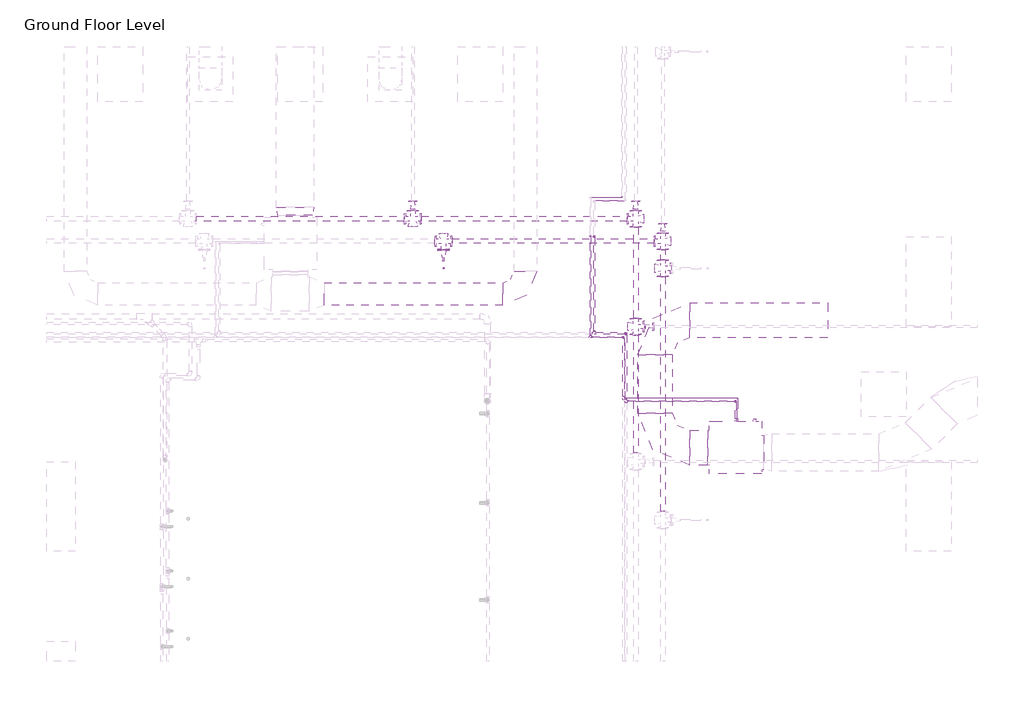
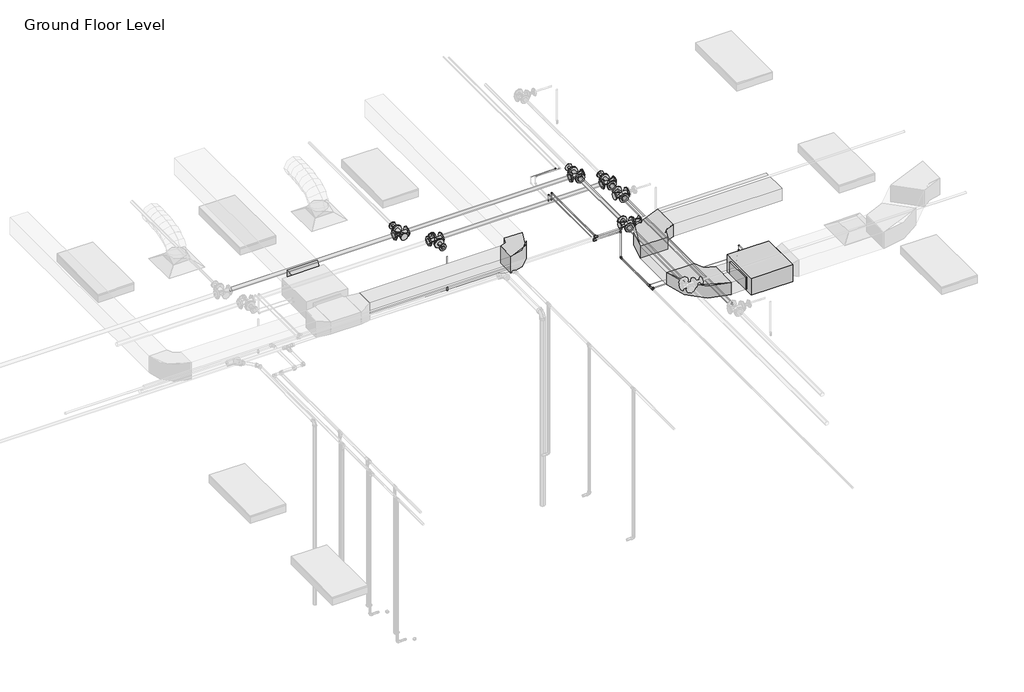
# One storey, part 67 of 74: 32 pipe fittings, 27 pipe segments, 4 duct fittings, 4 duct segments, 1 fire suppression terminal, 1 proxy.
"""IFC4 building model written with IfcOpenShell, lengths in millimetres."""

from ifc_helpers import new_model, si_unit, point, frame, frame_2d, origin, place, context, project, spatial, polyline, circle_curve, trimmed, segment, composite_curve, outline, extrude, transform, mapped, element, save
from components import fcu_daikin_iu_bad131e0, m_rectangular_elbow_radius_1_w_618da153, m_rectangular_elbow_radius_1_w_54c96895, m_rectangular_transition_angle_45_degree_5a11b24e, m_sprinkler_pendent_15_mm_pendent_06fcbd8e, m_elbow_generic_standard_a088f956, m_elbow_generic_standard_2a704253, m_elbow_generic_standard_73005802, m_elbow_generic_standard_bb5ffebe, m_reducer_flanged_cs_class_150_standard_a7631c35, m_reducer_flanged_cs_class_150_standard_55262df0, m_tee_generic_standard_cdc1cff5, m_tee_generic_standard_bbfc025c, m_tee_round_base_flanged_cs_class_150_standard_dd767e04, m_transition_generic_standard_e9aec4dd, m_transition_generic_standard_c2658a33

model = new_model("IFC4")

# Units and contexts
model_context = context("Model", 3, world=origin())
ifc_project = project(units=[si_unit("LENGTHUNIT", "METRE", prefix="MILLI")], contexts=[model_context])

# Site, building, storey
site = spatial("IfcSite", under=ifc_project)
building = spatial("IfcBuilding", under=site)
storey = spatial("IfcBuildingStorey", under=building, Name="Ground Floor Level", Elevation=900.0)

# Proxy
placement = place(None, origin())
fcu_daikin_iu_shape = fcu_daikin_iu_bad131e0(model_context)
element("IfcBuildingElementProxy", 1, Name="FCU-DAIKIN IU : 4.5kW, 230V/50Hz/1Ph", ObjectType="FCU-DAIKIN IU : 4.5kW, 230V/50Hz/1Ph", at=placement, inside=storey, context=model_context, shape_type="MappedRepresentation", body=[
    mapped(fcu_daikin_iu_shape, transform((6968.8139492, 12019.6779527, 3934.0932729), x_axis=(0.0, 1.0, 0.0), y_axis=(-1.0, 0.0, 0.0), z_axis=(0.0, 0.0, 1.0))),
])

# Duct fittings
m_rectangular_elbow_radius_1_w_shape = m_rectangular_elbow_radius_1_w_618da153(model_context)
element("IfcDuctFitting", 2, ObjectType="M_Rectangular Elbow - Radius : 1 W", at=placement, inside=storey, context=model_context, shape_type="MappedRepresentation", body=[
    mapped(m_rectangular_elbow_radius_1_w_shape, transform((4162.7672395, 14069.8153534, 4075.2872564), x_axis=(1.0, 0.0, 0.0), y_axis=(0.0, 1.0, 0.0), z_axis=(0.0, 0.0, 1.0))),
])
m_rectangular_elbow_radius_1_w_2_shape = m_rectangular_elbow_radius_1_w_54c96895(model_context)
element("IfcDuctFitting", 3, ObjectType="M_Rectangular Elbow - Radius : 1 W", at=placement, inside=storey, context=model_context, shape_type="MappedRepresentation", body=[
    mapped(m_rectangular_elbow_radius_1_w_2_shape, transform((5893.4139492, 12019.6779527, 4075.2932729), x_axis=(0.0, -1.0, 0.0), y_axis=(1.0, 0.0, 0.0), z_axis=(0.0, 0.0, 1.0))),
])
element("IfcDuctFitting", 4, ObjectType="M_Rectangular Elbow - Radius : 1 W", at=placement, inside=storey, context=model_context, shape_type="MappedRepresentation", body=[
    mapped(m_rectangular_elbow_radius_1_w_2_shape, transform((5893.4139492, 13719.6783949, 4075.2932729), x_axis=(-1.0, 0.0, 0.0), y_axis=(0.0, -1.0, 0.0), z_axis=(0.0, 0.0, 1.0))),
])
m_rectangular_transition_angle_45_degree_shape = m_rectangular_transition_angle_45_degree_5a11b24e(model_context)
element("IfcDuctFitting", 5, ObjectType="M_Rectangular Transition - Angle : 45 Degree", at=placement, inside=storey, context=model_context, shape_type="MappedRepresentation", body=[
    mapped(m_rectangular_transition_angle_45_degree_shape, transform((1091.2672395, 15120.6153534, 4099.9997564), x_axis=(0.0, 1.0, 0.0), y_axis=(-1.0, 0.0, 0.0), z_axis=(0.0, 0.0, 1.0))),
])

# Duct segments
element("IfcDuctSegment", 6, ObjectType="Radius Elbows / Taps", at=placement, inside=storey, context=model_context, shape_type="SweptSolid", body=[
    extrude(outline(polyline([(1479.1051497, 13919.8153534), (1479.1051497, 14219.8153534), (3862.7672395, 14219.8153534), (3862.7672395, 13919.8153534), (1479.1051497, 13919.8153534)])), frame((0.0, 0.0, 3925.2872564), z_axis=(0.0, 0.0, 1.0), x_axis=(1.0, 0.0, 0.0)), (0.0, 0.0, 1.0), 300.0),
])
element("IfcDuctSegment", 7, ObjectType="Radius Elbows / Taps", at=placement, inside=storey, context=model_context, shape_type="SweptSolid", body=[
    extrude(outline(polyline([(6593.4139492, 12250.6154527), (6593.4139492, 11788.7404527), (6355.2889492, 11788.7404527), (6355.2889492, 12250.6154527), (6593.4139492, 12250.6154527)])), frame((0.0, 0.0, 3968.1432729), z_axis=(0.0, 0.0, 1.0), x_axis=(1.0, 0.0, 0.0)), (0.0, 0.0, 1.0), 214.3),
])
element("IfcDuctSegment", 8, ObjectType="Radius Elbows / Taps", at=placement, inside=storey, context=model_context, shape_type="SweptSolid", body=[
    extrude(outline(polyline([(6124.3514492, 12481.5529527), (5662.4764492, 12481.5529527), (5662.4764492, 13257.8033949), (6124.3514492, 13257.8033949), (6124.3514492, 12481.5529527)])), frame((0.0, 0.0, 3968.1432729), z_axis=(0.0, 0.0, 1.0), x_axis=(1.0, 0.0, 0.0)), (0.0, 0.0, 1.0), 214.3),
])
element("IfcDuctSegment", 9, ObjectType="Radius Elbows / Taps", at=placement, inside=storey, context=model_context, shape_type="SweptSolid", body=[
    extrude(outline(polyline([(6355.2889492, 13488.7408949), (6355.2889492, 13950.6158949), (8193.4139492, 13950.6158949), (8193.4139492, 13488.7408949), (6355.2889492, 13488.7408949)])), frame((0.0, 0.0, 3968.1432729), z_axis=(0.0, 0.0, 1.0), x_axis=(1.0, 0.0, 0.0)), (0.0, 0.0, 1.0), 214.3),
])

# Fire suppression terminal
m_sprinkler_pendent_15_mm_pendent_shape = m_sprinkler_pendent_15_mm_pendent_06fcbd8e(model_context)
element("IfcFireSuppressionTerminal", 10, ObjectType="M_Sprinkler - Pendent : 15 mm Pendent", at=placement, inside=storey, context=model_context, shape_type="MappedRepresentation", body=[
    mapped(m_sprinkler_pendent_15_mm_pendent_shape, transform((3071.8868905, 14412.7243649, 3650.0), x_axis=(1.0, 0.0, 0.0), y_axis=(0.0, 1.0, 0.0), z_axis=(0.0, 0.0, 1.0))),
])

# Pipe fittings
m_elbow_generic_standard_shape = m_elbow_generic_standard_a088f956(model_context)
element("IfcPipeFitting", 11, ObjectType="M_Elbow - Generic : Standard", at=placement, inside=storey, context=model_context, shape_type="MappedRepresentation", body=[
    mapped(m_elbow_generic_standard_shape, transform((6968.8139492, 12641.4098545, 4034.0932729), x_axis=(0.0, 1.0, 0.0), y_axis=(0.0, 0.0, -1.0), z_axis=(-1.0, 0.0, 0.0))),
])
element("IfcPipeFitting", 12, ObjectType="M_Elbow - Generic : Standard", at=placement, inside=storey, context=model_context, shape_type="MappedRepresentation", body=[
    mapped(m_elbow_generic_standard_shape, transform((6968.8139492, 12641.4098545, 3851.8370709), x_axis=(0.0, 0.0, -1.0), y_axis=(-1.0, 0.0, 0.0), z_axis=(0.0, 1.0, 0.0))),
])
element("IfcPipeFitting", 13, ObjectType="M_Elbow - Generic : Standard", at=placement, inside=storey, context=model_context, shape_type="MappedRepresentation", body=[
    mapped(m_elbow_generic_standard_shape, transform((5079.6672395, 14839.2712401, 4250.0), x_axis=(0.0, -1.0, 0.0), y_axis=(0.0, 0.0, 1.0), z_axis=(-1.0, 0.0, 0.0))),
])
element("IfcPipeFitting", 14, ObjectType="M_Elbow - Generic : Standard", at=placement, inside=storey, context=model_context, shape_type="MappedRepresentation", body=[
    mapped(m_elbow_generic_standard_shape, transform((5079.6672395, 14839.2712401, 4380.0), x_axis=(0.0, 0.0, 1.0), y_axis=(0.0, -1.0, 0.0), z_axis=(1.0, 0.0, 0.0))),
])
m_elbow_generic_standard_2_shape = m_elbow_generic_standard_2a704253(model_context)
element("IfcPipeFitting", 15, ObjectType="M_Elbow - Generic : Standard", at=placement, inside=storey, context=model_context, shape_type="MappedRepresentation", body=[
    mapped(m_elbow_generic_standard_2_shape, transform((5452.0810646, 15359.0778534, 4365.0), x_axis=(1.0, 0.0, 0.0), y_axis=(0.0, 1.0, 0.0), z_axis=(0.0, 0.0, 1.0))),
])
element("IfcPipeFitting", 16, ObjectType="M_Elbow - Generic : Standard", at=placement, inside=storey, context=model_context, shape_type="MappedRepresentation", body=[
    mapped(m_elbow_generic_standard_2_shape, transform((6993.8139492, 12681.5253374, 4084.8932729), x_axis=(0.0, 1.0, 0.0), y_axis=(0.0, 0.0, -1.0), z_axis=(-1.0, 0.0, 0.0))),
])
element("IfcPipeFitting", 17, ObjectType="M_Elbow - Generic : Standard", at=placement, inside=storey, context=model_context, shape_type="MappedRepresentation", body=[
    mapped(m_elbow_generic_standard_2_shape, transform((6993.8139492, 12681.5253374, 3894.9), x_axis=(0.0, 0.0, -1.0), y_axis=(-1.0, 0.0, 0.0), z_axis=(0.0, 1.0, 0.0))),
])
element("IfcPipeFitting", 18, ObjectType="M_Elbow - Generic : Standard", at=placement, inside=storey, context=model_context, shape_type="MappedRepresentation", body=[
    mapped(m_elbow_generic_standard_2_shape, transform((5029.9807053, 14842.4877441, 4250.0), x_axis=(0.0, -1.0, 0.0), y_axis=(0.0, 0.0, 1.0), z_axis=(-1.0, 0.0, 0.0))),
])
element("IfcPipeFitting", 19, ObjectType="M_Elbow - Generic : Standard", at=placement, inside=storey, context=model_context, shape_type="MappedRepresentation", body=[
    mapped(m_elbow_generic_standard_2_shape, transform((5029.9807053, 14842.4877441, 4365.0), x_axis=(0.0, 0.0, 1.0), y_axis=(0.0, -1.0, 0.0), z_axis=(1.0, 0.0, 0.0))),
])
m_elbow_generic_standard_3_shape = m_elbow_generic_standard_73005802(model_context)
element("IfcPipeFitting", 20, ObjectType="M_Elbow - Generic : Standard", at=placement, inside=storey, context=model_context, shape_type="MappedRepresentation", body=[
    mapped(m_elbow_generic_standard_3_shape, transform((5505.0672395, 13545.2153534, 3851.8370709), x_axis=(0.0, 1.0, 0.0), y_axis=(0.0, 0.0, 1.0), z_axis=(1.0, 0.0, 0.0))),
])
element("IfcPipeFitting", 21, ObjectType="M_Elbow - Generic : Standard", at=placement, inside=storey, context=model_context, shape_type="MappedRepresentation", body=[
    mapped(m_elbow_generic_standard_3_shape, transform((5505.0672395, 13545.2153534, 4380.0), x_axis=(0.0, 0.0, 1.0), y_axis=(-1.0, 0.0, 0.0), z_axis=(0.0, -1.0, 0.0))),
])
m_elbow_generic_standard_4_shape = m_elbow_generic_standard_bb5ffebe(model_context)
element("IfcPipeFitting", 22, ObjectType="M_Elbow - Generic : Standard", at=placement, inside=storey, context=model_context, shape_type="MappedRepresentation", body=[
    mapped(m_elbow_generic_standard_4_shape, transform((5472.2057053, 13494.0185138, 3894.9), x_axis=(0.0, 1.0, 0.0), y_axis=(0.0, 0.0, 1.0), z_axis=(1.0, 0.0, 0.0))),
])
element("IfcPipeFitting", 23, ObjectType="M_Elbow - Generic : Standard", at=placement, inside=storey, context=model_context, shape_type="MappedRepresentation", body=[
    mapped(m_elbow_generic_standard_4_shape, transform((5472.2057053, 13494.0185138, 4365.0), x_axis=(0.0, 0.0, 1.0), y_axis=(-1.0, 0.0, 0.0), z_axis=(0.0, -1.0, 0.0))),
])
m_reducer_flanged_cs_class_150_standard_shape = m_reducer_flanged_cs_class_150_standard_a7631c35(model_context)
element("IfcPipeFitting", 24, ObjectType="M_Reducer - Flanged - CS - Class 150 : Standard", at=placement, inside=storey, context=model_context, shape_type="MappedRepresentation", body=[
    mapped(m_reducer_flanged_cs_class_150_standard_shape, transform((5997.057812, 14887.4681847, 4291.0943441), x_axis=(0.0, 1.0, 0.0), y_axis=(-1.0, 0.0, 0.0), z_axis=(0.0, 0.0, 1.0))),
])
element("IfcPipeFitting", 25, ObjectType="M_Reducer - Flanged - CS - Class 150 : Standard", at=placement, inside=storey, context=model_context, shape_type="MappedRepresentation", body=[
    mapped(m_reducer_flanged_cs_class_150_standard_shape, transform((2662.7672395, 15187.2009828, 4360.0), x_axis=(0.0, 1.0, 0.0), y_axis=(-1.0, 0.0, 0.0), z_axis=(0.0, 0.0, 1.0))),
])
element("IfcPipeFitting", 26, ObjectType="M_Reducer - Flanged - CS - Class 150 : Standard", at=placement, inside=storey, context=model_context, shape_type="MappedRepresentation", body=[
    mapped(m_reducer_flanged_cs_class_150_standard_shape, transform((5635.869498, 15187.2009828, 4360.0), x_axis=(0.0, 1.0, 0.0), y_axis=(-1.0, 0.0, 0.0), z_axis=(0.0, 0.0, 1.0))),
])
element("IfcPipeFitting", 27, ObjectType="M_Reducer - Flanged - CS - Class 150 : Standard", at=placement, inside=storey, context=model_context, shape_type="MappedRepresentation", body=[
    mapped(m_reducer_flanged_cs_class_150_standard_shape, transform((5749.869498, 13635.2153534, 4360.0), x_axis=(1.0, 0.0, 0.0), y_axis=(0.0, 0.0, 1.0), z_axis=(0.0, -1.0, 0.0))),
])
m_reducer_flanged_cs_class_150_standard_2_shape = m_reducer_flanged_cs_class_150_standard_55262df0(model_context)
element("IfcPipeFitting", 28, ObjectType="M_Reducer - Flanged - CS - Class 150 : Standard", at=placement, inside=storey, context=model_context, shape_type="MappedRepresentation", body=[
    mapped(m_reducer_flanged_cs_class_150_standard_2_shape, transform((3071.8868905, 14659.4681847, 4291.0943441), x_axis=(0.0, -1.0, 0.0), y_axis=(1.0, 0.0, 0.0), z_axis=(0.0, 0.0, 1.0))),
])
m_tee_generic_standard_shape = m_tee_generic_standard_cdc1cff5(model_context)
element("IfcPipeFitting", 29, ObjectType="M_Tee - Generic : Standard", at=placement, inside=storey, context=model_context, shape_type="MappedRepresentation", body=[
    mapped(m_tee_generic_standard_shape, transform((5472.2057053, 12681.5253374, 3894.9), x_axis=(0.0, 1.0, 0.0), y_axis=(-1.0, 0.0, 0.0), z_axis=(0.0, 0.0, 1.0))),
])
element("IfcPipeFitting", 30, ObjectType="M_Tee - Generic : Standard", at=placement, inside=storey, context=model_context, shape_type="MappedRepresentation", body=[
    mapped(m_tee_generic_standard_shape, transform((5029.9807053, 13494.0185138, 4365.0), x_axis=(-1.0, 0.0, 0.0), y_axis=(0.0, -1.0, 0.0), z_axis=(0.0, 0.0, 1.0))),
])
m_tee_generic_standard_2_shape = m_tee_generic_standard_bbfc025c(model_context)
element("IfcPipeFitting", 31, ObjectType="M_Tee - Generic : Standard", at=placement, inside=storey, context=model_context, shape_type="MappedRepresentation", body=[
    mapped(m_tee_generic_standard_2_shape, transform((5505.0672395, 12641.4098545, 3851.8370709), x_axis=(0.0, 1.0, 0.0), y_axis=(-1.0, 0.0, 0.0), z_axis=(0.0, 0.0, 1.0))),
])
element("IfcPipeFitting", 32, ObjectType="M_Tee - Generic : Standard", at=placement, inside=storey, context=model_context, shape_type="MappedRepresentation", body=[
    mapped(m_tee_generic_standard_2_shape, transform((5079.6672395, 13545.2153534, 4380.0), x_axis=(-1.0, 0.0, 0.0), y_axis=(0.0, -1.0, 0.0), z_axis=(0.0, 0.0, 1.0))),
])
m_tee_round_base_flanged_cs_class_150_standard_shape = m_tee_round_base_flanged_cs_class_150_standard_dd767e04(model_context)
element("IfcPipeFitting", 33, ObjectType="M_Tee Round Base - Flanged - CS - Class 150 : Standard", at=placement, inside=storey, context=model_context, shape_type="MappedRepresentation", body=[
    mapped(m_tee_round_base_flanged_cs_class_150_standard_shape, transform((5997.057812, 14773.4681847, 4291.0943441), x_axis=(0.0, -1.0, 0.0), y_axis=(1.0, 0.0, 0.0), z_axis=(0.0, 0.0, 1.0))),
])
element("IfcPipeFitting", 34, ObjectType="M_Tee Round Base - Flanged - CS - Class 150 : Standard", at=placement, inside=storey, context=model_context, shape_type="MappedRepresentation", body=[
    mapped(m_tee_round_base_flanged_cs_class_150_standard_shape, transform((3071.8868905, 14773.4681847, 4291.0943441), x_axis=(-1.0, 0.0, 0.0), y_axis=(0.0, 1.0, 0.0), z_axis=(0.0, 0.0, -1.0))),
])
element("IfcPipeFitting", 35, ObjectType="M_Tee Round Base - Flanged - CS - Class 150 : Standard", at=placement, inside=storey, context=model_context, shape_type="MappedRepresentation", body=[
    mapped(m_tee_round_base_flanged_cs_class_150_standard_shape, transform((5997.057812, 14412.7243649, 4291.0943441), x_axis=(0.0, 1.0, 0.0), y_axis=(-1.0, 0.0, 0.0), z_axis=(0.0, 0.0, 1.0))),
])
element("IfcPipeFitting", 36, ObjectType="M_Tee Round Base - Flanged - CS - Class 150 : Standard", at=placement, inside=storey, context=model_context, shape_type="MappedRepresentation", body=[
    mapped(m_tee_round_base_flanged_cs_class_150_standard_shape, transform((2662.7672395, 15073.2009828, 4360.0), x_axis=(-1.0, 0.0, 0.0), y_axis=(0.0, -1.0, 0.0), z_axis=(0.0, 0.0, 1.0))),
])
element("IfcPipeFitting", 37, ObjectType="M_Tee Round Base - Flanged - CS - Class 150 : Standard", at=placement, inside=storey, context=model_context, shape_type="MappedRepresentation", body=[
    mapped(m_tee_round_base_flanged_cs_class_150_standard_shape, transform((5635.869498, 15073.2009828, 4360.0), x_axis=(0.0, -1.0, 0.0), y_axis=(1.0, 0.0, 0.0), z_axis=(0.0, 0.0, 1.0))),
])
element("IfcPipeFitting", 38, ObjectType="M_Tee Round Base - Flanged - CS - Class 150 : Standard", at=placement, inside=storey, context=model_context, shape_type="MappedRepresentation", body=[
    mapped(m_tee_round_base_flanged_cs_class_150_standard_shape, transform((5635.869498, 13635.2153534, 4360.0), x_axis=(0.0, 1.0, 0.0), y_axis=(-1.0, 0.0, 0.0), z_axis=(0.0, 0.0, 1.0))),
])
m_transition_generic_standard_shape = m_transition_generic_standard_e9aec4dd(model_context)
element("IfcPipeFitting", 39, ObjectType="M_Transition - Generic : Standard", at=placement, inside=storey, context=model_context, shape_type="MappedRepresentation", body=[
    mapped(m_transition_generic_standard_shape, transform((5530.4672395, 12641.4098545, 3851.8370709), x_axis=(1.0, 0.0, 0.0), y_axis=(0.0, 1.0, 0.0), z_axis=(0.0, 0.0, 1.0))),
])
element("IfcPipeFitting", 40, ObjectType="M_Transition - Generic : Standard", at=placement, inside=storey, context=model_context, shape_type="MappedRepresentation", body=[
    mapped(m_transition_generic_standard_shape, transform((5079.6672395, 13570.6153534, 4380.0), x_axis=(0.0, 1.0, 0.0), y_axis=(-1.0, 0.0, 0.0), z_axis=(0.0, 0.0, 1.0))),
])
m_transition_generic_standard_2_shape = m_transition_generic_standard_c2658a33(model_context)
element("IfcPipeFitting", 41, ObjectType="M_Transition - Generic : Standard", at=placement, inside=storey, context=model_context, shape_type="MappedRepresentation", body=[
    mapped(m_transition_generic_standard_2_shape, transform((5494.4307053, 12681.5253374, 3894.9), x_axis=(1.0, 0.0, 0.0), y_axis=(0.0, 1.0, 0.0), z_axis=(0.0, 0.0, 1.0))),
])
element("IfcPipeFitting", 42, ObjectType="M_Transition - Generic : Standard", at=placement, inside=storey, context=model_context, shape_type="MappedRepresentation", body=[
    mapped(m_transition_generic_standard_2_shape, transform((5029.9807053, 13516.2435138, 4365.0), x_axis=(0.0, 1.0, 0.0), y_axis=(-1.0, 0.0, 0.0), z_axis=(0.0, 0.0, 1.0))),
])

# Pipe segments
element("IfcPipeSegment", 43, ObjectType="Copper", at=placement, inside=storey, context=model_context, shape_type="SweptSolid", body=[
    extrude(outline(composite_curve([segment(trimmed(circle_curve(frame_2d((13494.0185138, 4365.0)), 8.1), [point((13485.9185138, 4365.0))], [point((13494.0185138, 4373.1))], False, "CARTESIAN"), True, "CONTINUOUS"), segment(trimmed(circle_curve(frame_2d((13494.0185138, 4365.0)), 8.1), [point((13494.0185138, 4373.1))], [point((13502.1185138, 4365.0))], False, "CARTESIAN"), True, "CONTINUOUS"), segment(trimmed(circle_curve(frame_2d((13494.0185138, 4365.0)), 8.1), [point((13502.1185138, 4365.0))], [point((13494.0185138, 4356.9))], False, "CARTESIAN"), True, "CONTINUOUS"), segment(trimmed(circle_curve(frame_2d((13494.0185138, 4365.0)), 8.1), [point((13494.0185138, 4356.9))], [point((13485.9185138, 4365.0))], False, "CARTESIAN"), True, "CONTINUOUS")], self_intersect=False)), frame((5052.2057053, 0.0, 0.0), z_axis=(1.0, 0.0, 0.0), x_axis=(0.0, 1.0, 0.0)), (0.0, 0.0, 1.0), 404.125),
])
element("IfcPipeSegment", 44, ObjectType="Copper", at=placement, inside=storey, context=model_context, shape_type="SweptSolid", body=[
    extrude(outline(composite_curve([segment(trimmed(circle_curve(frame_2d((15359.0778534, 4365.0)), 3.35), [point((15355.7278534, 4365.0))], [point((15359.0778534, 4368.35))], False, "CARTESIAN"), True, "CONTINUOUS"), segment(trimmed(circle_curve(frame_2d((15359.0778534, 4365.0)), 3.35), [point((15359.0778534, 4368.35))], [point((15362.4278534, 4365.0))], False, "CARTESIAN"), True, "CONTINUOUS"), segment(trimmed(circle_curve(frame_2d((15359.0778534, 4365.0)), 3.35), [point((15362.4278534, 4365.0))], [point((15359.0778534, 4361.65))], False, "CARTESIAN"), True, "CONTINUOUS"), segment(trimmed(circle_curve(frame_2d((15359.0778534, 4365.0)), 3.35), [point((15359.0778534, 4361.65))], [point((15355.7278534, 4365.0))], False, "CARTESIAN"), True, "CONTINUOUS")], self_intersect=False)), frame((5041.1182053, 0.0, 0.0), z_axis=(1.0, 0.0, 0.0), x_axis=(0.0, 1.0, 0.0)), (0.0, 0.0, 1.0), 399.8253593),
])
element("IfcPipeSegment", 45, ObjectType="Copper", at=placement, inside=storey, context=model_context, shape_type="SweptSolid", body=[
    extrude(outline(composite_curve([segment(trimmed(circle_curve(frame_2d((15310.9278534, 4380.0)), 6.5), [point((15304.4278534, 4380.0))], [point((15310.9278534, 4386.5))], False, "CARTESIAN"), True, "CONTINUOUS"), segment(trimmed(circle_curve(frame_2d((15310.9278534, 4380.0)), 6.5), [point((15310.9278534, 4386.5))], [point((15317.4278534, 4380.0))], False, "CARTESIAN"), True, "CONTINUOUS"), segment(trimmed(circle_curve(frame_2d((15310.9278534, 4380.0)), 6.5), [point((15317.4278534, 4380.0))], [point((15310.9278534, 4373.5))], False, "CARTESIAN"), True, "CONTINUOUS"), segment(trimmed(circle_curve(frame_2d((15310.9278534, 4380.0)), 6.5), [point((15310.9278534, 4373.5))], [point((15304.4278534, 4380.0))], False, "CARTESIAN"), True, "CONTINUOUS")], self_intersect=False)), frame((5093.9547395, 0.0, 0.0), z_axis=(1.0, 0.0, 0.0), x_axis=(0.0, 1.0, 0.0)), (0.0, 0.0, 1.0), 393.5253593),
])
element("IfcPipeSegment", 46, ObjectType="Copper", at=placement, inside=storey, context=model_context, shape_type="SweptSolid", body=[
    extrude(outline(composite_curve([segment(trimmed(circle_curve(frame_2d((12681.5253374, 3894.9)), 3.35), [point((12684.8753374, 3894.9))], [point((12681.5253374, 3891.55))], False, "CARTESIAN"), True, "CONTINUOUS"), segment(trimmed(circle_curve(frame_2d((12681.5253374, 3894.9)), 3.35), [point((12681.5253374, 3891.55))], [point((12678.1753374, 3894.9))], False, "CARTESIAN"), True, "CONTINUOUS"), segment(trimmed(circle_curve(frame_2d((12681.5253374, 3894.9)), 3.35), [point((12678.1753374, 3894.9))], [point((12681.5253374, 3898.25))], False, "CARTESIAN"), True, "CONTINUOUS"), segment(trimmed(circle_curve(frame_2d((12681.5253374, 3894.9)), 3.35), [point((12681.5253374, 3898.25))], [point((12684.8753374, 3894.9))], False, "CARTESIAN"), True, "CONTINUOUS")], self_intersect=False)), frame((5499.1932053, 0.0, 0.0), z_axis=(1.0, 0.0, 0.0), x_axis=(0.0, 1.0, 0.0)), (0.0, 0.0, 1.0), 1483.483244),
])
element("IfcPipeSegment", 47, ObjectType="Copper", at=placement, inside=storey, context=model_context, shape_type="SweptSolid", body=[
    extrude(outline(composite_curve([segment(trimmed(circle_curve(frame_2d((12641.4098545, 3851.8370709)), 6.5), [point((12647.9098545, 3851.8370709))], [point((12641.4098545, 3845.3370709))], False, "CARTESIAN"), True, "CONTINUOUS"), segment(trimmed(circle_curve(frame_2d((12641.4098545, 3851.8370709)), 6.5), [point((12641.4098545, 3845.3370709))], [point((12634.9098545, 3851.8370709))], False, "CARTESIAN"), True, "CONTINUOUS"), segment(trimmed(circle_curve(frame_2d((12641.4098545, 3851.8370709)), 6.5), [point((12634.9098545, 3851.8370709))], [point((12641.4098545, 3858.3370709))], False, "CARTESIAN"), True, "CONTINUOUS"), segment(trimmed(circle_curve(frame_2d((12641.4098545, 3851.8370709)), 6.5), [point((12641.4098545, 3858.3370709))], [point((12647.9098545, 3851.8370709))], False, "CARTESIAN"), True, "CONTINUOUS")], self_intersect=False)), frame((5536.8172395, 0.0, 0.0), z_axis=(1.0, 0.0, 0.0), x_axis=(0.0, 1.0, 0.0)), (0.0, 0.0, 1.0), 1417.7092098),
])
element("IfcPipeSegment", 48, ObjectType="Copper", at=placement, inside=storey, context=model_context, shape_type="SweptSolid", body=[
    extrude(outline(composite_curve([segment(trimmed(circle_curve(frame_2d((4034.0932729, 6968.8139492)), 6.5), [point((4034.0932729, 6975.3139492))], [point((4040.5932729, 6968.8139492))], False, "CARTESIAN"), True, "CONTINUOUS"), segment(trimmed(circle_curve(frame_2d((4034.0932729, 6968.8139492)), 6.5), [point((4040.5932729, 6968.8139492))], [point((4034.0932729, 6962.3139492))], False, "CARTESIAN"), True, "CONTINUOUS"), segment(trimmed(circle_curve(frame_2d((4034.0932729, 6968.8139492)), 6.5), [point((4034.0932729, 6962.3139492))], [point((4027.5932729, 6968.8139492))], False, "CARTESIAN"), True, "CONTINUOUS"), segment(trimmed(circle_curve(frame_2d((4034.0932729, 6968.8139492)), 6.5), [point((4027.5932729, 6968.8139492))], [point((4034.0932729, 6975.3139492))], False, "CARTESIAN"), True, "CONTINUOUS")], self_intersect=False)), frame((0.0, 12407.7779527, 0.0), z_axis=(0.0, 1.0, 0.0), x_axis=(0.0, 0.0, 1.0)), (0.0, 0.0, 1.0), 219.3444019),
])
element("IfcPipeSegment", 49, ObjectType="Copper", at=placement, inside=storey, context=model_context, shape_type="SweptSolid", body=[
    extrude(outline(composite_curve([segment(trimmed(circle_curve(frame_2d((4084.8932729, 6993.8139492)), 3.35), [point((4084.8932729, 6997.1639492))], [point((4088.2432729, 6993.8139492))], False, "CARTESIAN"), True, "CONTINUOUS"), segment(trimmed(circle_curve(frame_2d((4084.8932729, 6993.8139492)), 3.35), [point((4088.2432729, 6993.8139492))], [point((4084.8932729, 6990.4639492))], False, "CARTESIAN"), True, "CONTINUOUS"), segment(trimmed(circle_curve(frame_2d((4084.8932729, 6993.8139492)), 3.35), [point((4084.8932729, 6990.4639492))], [point((4081.5432729, 6993.8139492))], False, "CARTESIAN"), True, "CONTINUOUS"), segment(trimmed(circle_curve(frame_2d((4084.8932729, 6993.8139492)), 3.35), [point((4081.5432729, 6993.8139492))], [point((4084.8932729, 6997.1639492))], False, "CARTESIAN"), True, "CONTINUOUS")], self_intersect=False)), frame((0.0, 12407.7779527, 0.0), z_axis=(0.0, 1.0, 0.0), x_axis=(0.0, 0.0, 1.0)), (0.0, 0.0, 1.0), 262.6098848),
])
element("IfcPipeSegment", 50, ObjectType="Copper", at=placement, inside=storey, context=model_context, shape_type="SweptSolid", body=[
    extrude(outline(composite_curve([segment(trimmed(circle_curve(frame_2d((5505.0672395, 13545.2153534)), 11.5), [point((5493.5672395, 13545.2153534))], [point((5505.0672395, 13556.7153534))], False, "CARTESIAN"), True, "CONTINUOUS"), segment(trimmed(circle_curve(frame_2d((5505.0672395, 13545.2153534)), 11.5), [point((5505.0672395, 13556.7153534))], [point((5516.5672395, 13545.2153534))], False, "CARTESIAN"), True, "CONTINUOUS"), segment(trimmed(circle_curve(frame_2d((5505.0672395, 13545.2153534)), 11.5), [point((5516.5672395, 13545.2153534))], [point((5505.0672395, 13533.7153534))], False, "CARTESIAN"), True, "CONTINUOUS"), segment(trimmed(circle_curve(frame_2d((5505.0672395, 13545.2153534)), 11.5), [point((5505.0672395, 13533.7153534))], [point((5493.5672395, 13545.2153534))], False, "CARTESIAN"), True, "CONTINUOUS")], self_intersect=False)), frame((0.0, 0.0, 3870.8870709), z_axis=(0.0, 0.0, 1.0), x_axis=(1.0, 0.0, 0.0)), (0.0, 0.0, 1.0), 490.0629291),
])
element("IfcPipeSegment", 51, ObjectType="Copper", at=placement, inside=storey, context=model_context, shape_type="SweptSolid", body=[
    extrude(outline(composite_curve([segment(trimmed(circle_curve(frame_2d((5472.2057053, 13494.0185138)), 8.1), [point((5464.1057053, 13494.0185138))], [point((5472.2057053, 13502.1185138))], False, "CARTESIAN"), True, "CONTINUOUS"), segment(trimmed(circle_curve(frame_2d((5472.2057053, 13494.0185138)), 8.1), [point((5472.2057053, 13502.1185138))], [point((5480.3057053, 13494.0185138))], False, "CARTESIAN"), True, "CONTINUOUS"), segment(trimmed(circle_curve(frame_2d((5472.2057053, 13494.0185138)), 8.1), [point((5480.3057053, 13494.0185138))], [point((5472.2057053, 13485.9185138))], False, "CARTESIAN"), True, "CONTINUOUS"), segment(trimmed(circle_curve(frame_2d((5472.2057053, 13494.0185138)), 8.1), [point((5472.2057053, 13485.9185138))], [point((5464.1057053, 13494.0185138))], False, "CARTESIAN"), True, "CONTINUOUS")], self_intersect=False)), frame((0.0, 0.0, 3910.775), z_axis=(0.0, 0.0, 1.0), x_axis=(1.0, 0.0, 0.0)), (0.0, 0.0, 1.0), 438.35),
])
element("IfcPipeSegment", 52, ObjectType="Copper", at=placement, inside=storey, context=model_context, shape_type="SweptSolid", body=[
    extrude(outline(composite_curve([segment(trimmed(circle_curve(frame_2d((6968.8139492, 12641.4098545)), 6.5), [point((6975.3139492, 12641.4098545))], [point((6968.8139492, 12634.9098545))], False, "CARTESIAN"), True, "CONTINUOUS"), segment(trimmed(circle_curve(frame_2d((6968.8139492, 12641.4098545)), 6.5), [point((6968.8139492, 12634.9098545))], [point((6962.3139492, 12641.4098545))], False, "CARTESIAN"), True, "CONTINUOUS"), segment(trimmed(circle_curve(frame_2d((6968.8139492, 12641.4098545)), 6.5), [point((6962.3139492, 12641.4098545))], [point((6968.8139492, 12647.9098545))], False, "CARTESIAN"), True, "CONTINUOUS"), segment(trimmed(circle_curve(frame_2d((6968.8139492, 12641.4098545)), 6.5), [point((6968.8139492, 12647.9098545))], [point((6975.3139492, 12641.4098545))], False, "CARTESIAN"), True, "CONTINUOUS")], self_intersect=False)), frame((0.0, 0.0, 3866.1245709), z_axis=(0.0, 0.0, 1.0), x_axis=(1.0, 0.0, 0.0)), (0.0, 0.0, 1.0), 153.6812021),
])
element("IfcPipeSegment", 53, ObjectType="Copper", at=placement, inside=storey, context=model_context, shape_type="SweptSolid", body=[
    extrude(outline(composite_curve([segment(trimmed(circle_curve(frame_2d((3851.8370709, 5505.0672395)), 11.5), [point((3851.8370709, 5493.5672395))], [point((3840.3370709, 5505.0672395))], False, "CARTESIAN"), True, "CONTINUOUS"), segment(trimmed(circle_curve(frame_2d((3851.8370709, 5505.0672395)), 11.5), [point((3840.3370709, 5505.0672395))], [point((3851.8370709, 5516.5672395))], False, "CARTESIAN"), True, "CONTINUOUS"), segment(trimmed(circle_curve(frame_2d((3851.8370709, 5505.0672395)), 11.5), [point((3851.8370709, 5516.5672395))], [point((3863.3370709, 5505.0672395))], False, "CARTESIAN"), True, "CONTINUOUS"), segment(trimmed(circle_curve(frame_2d((3851.8370709, 5505.0672395)), 11.5), [point((3863.3370709, 5505.0672395))], [point((3851.8370709, 5493.5672395))], False, "CARTESIAN"), True, "CONTINUOUS")], self_intersect=False)), frame((0.0, 12666.8098545, 0.0), z_axis=(0.0, 1.0, 0.0), x_axis=(0.0, 0.0, 1.0)), (0.0, 0.0, 1.0), 859.3554989),
])
element("IfcPipeSegment", 54, ObjectType="Copper", at=placement, inside=storey, context=model_context, shape_type="SweptSolid", body=[
    extrude(outline(composite_curve([segment(trimmed(circle_curve(frame_2d((6993.8139492, 12681.5253374)), 3.35), [point((6997.1639492, 12681.5253374))], [point((6993.8139492, 12678.1753374))], False, "CARTESIAN"), True, "CONTINUOUS"), segment(trimmed(circle_curve(frame_2d((6993.8139492, 12681.5253374)), 3.35), [point((6993.8139492, 12678.1753374))], [point((6990.4639492, 12681.5253374))], False, "CARTESIAN"), True, "CONTINUOUS"), segment(trimmed(circle_curve(frame_2d((6993.8139492, 12681.5253374)), 3.35), [point((6990.4639492, 12681.5253374))], [point((6993.8139492, 12684.8753374))], False, "CARTESIAN"), True, "CONTINUOUS"), segment(trimmed(circle_curve(frame_2d((6993.8139492, 12681.5253374)), 3.35), [point((6993.8139492, 12684.8753374))], [point((6997.1639492, 12681.5253374))], False, "CARTESIAN"), True, "CONTINUOUS")], self_intersect=False)), frame((0.0, 0.0, 3906.0375), z_axis=(0.0, 0.0, 1.0), x_axis=(1.0, 0.0, 0.0)), (0.0, 0.0, 1.0), 167.7182729),
])
element("IfcPipeSegment", 55, ObjectType="Copper", at=placement, inside=storey, context=model_context, shape_type="SweptSolid", body=[
    extrude(outline(composite_curve([segment(trimmed(circle_curve(frame_2d((3894.9, 5472.2057053)), 8.1), [point((3894.9, 5464.1057053))], [point((3886.8, 5472.2057053))], False, "CARTESIAN"), True, "CONTINUOUS"), segment(trimmed(circle_curve(frame_2d((3894.9, 5472.2057053)), 8.1), [point((3886.8, 5472.2057053))], [point((3894.9, 5480.3057053))], False, "CARTESIAN"), True, "CONTINUOUS"), segment(trimmed(circle_curve(frame_2d((3894.9, 5472.2057053)), 8.1), [point((3894.9, 5480.3057053))], [point((3903.0, 5472.2057053))], False, "CARTESIAN"), True, "CONTINUOUS"), segment(trimmed(circle_curve(frame_2d((3894.9, 5472.2057053)), 8.1), [point((3903.0, 5472.2057053))], [point((3894.9, 5464.1057053))], False, "CARTESIAN"), True, "CONTINUOUS")], self_intersect=False)), frame((0.0, 12703.7503374, 0.0), z_axis=(0.0, 1.0, 0.0), x_axis=(0.0, 0.0, 1.0)), (0.0, 0.0, 1.0), 774.3931764),
])
element("IfcPipeSegment", 56, ObjectType="Copper", at=placement, inside=storey, context=model_context, shape_type="SweptSolid", body=[
    extrude(outline(composite_curve([segment(trimmed(circle_curve(frame_2d((4380.0, 5079.6672395)), 6.5), [point((4380.0, 5086.1672395))], [point((4386.5, 5079.6672395))], False, "CARTESIAN"), True, "CONTINUOUS"), segment(trimmed(circle_curve(frame_2d((4380.0, 5079.6672395)), 6.5), [point((4386.5, 5079.6672395))], [point((4380.0, 5073.1672395))], False, "CARTESIAN"), True, "CONTINUOUS"), segment(trimmed(circle_curve(frame_2d((4380.0, 5079.6672395)), 6.5), [point((4380.0, 5073.1672395))], [point((4373.5, 5079.6672395))], False, "CARTESIAN"), True, "CONTINUOUS"), segment(trimmed(circle_curve(frame_2d((4380.0, 5079.6672395)), 6.5), [point((4373.5, 5079.6672395))], [point((4380.0, 5086.1672395))], False, "CARTESIAN"), True, "CONTINUOUS")], self_intersect=False)), frame((0.0, 13576.9653534, 0.0), z_axis=(0.0, 1.0, 0.0), x_axis=(0.0, 0.0, 1.0)), (0.0, 0.0, 1.0), 1248.0183867),
])
element("IfcPipeSegment", 57, ObjectType="Copper", at=placement, inside=storey, context=model_context, shape_type="SweptSolid", body=[
    extrude(outline(composite_curve([segment(trimmed(circle_curve(frame_2d((4365.0, 5029.9807053)), 3.35), [point((4365.0, 5033.3307053))], [point((4368.35, 5029.9807053))], False, "CARTESIAN"), True, "CONTINUOUS"), segment(trimmed(circle_curve(frame_2d((4365.0, 5029.9807053)), 3.35), [point((4368.35, 5029.9807053))], [point((4365.0, 5026.6307053))], False, "CARTESIAN"), True, "CONTINUOUS"), segment(trimmed(circle_curve(frame_2d((4365.0, 5029.9807053)), 3.35), [point((4365.0, 5026.6307053))], [point((4361.65, 5029.9807053))], False, "CARTESIAN"), True, "CONTINUOUS"), segment(trimmed(circle_curve(frame_2d((4365.0, 5029.9807053)), 3.35), [point((4361.65, 5029.9807053))], [point((4365.0, 5033.3307053))], False, "CARTESIAN"), True, "CONTINUOUS")], self_intersect=False)), frame((0.0, 13521.0060138, 0.0), z_axis=(0.0, 1.0, 0.0), x_axis=(0.0, 0.0, 1.0)), (0.0, 0.0, 1.0), 1310.3442303),
])
element("IfcPipeSegment", 58, ObjectType="Copper", at=placement, inside=storey, context=model_context, shape_type="SweptSolid", body=[
    extrude(outline(composite_curve([segment(trimmed(circle_curve(frame_2d((5029.9807053, 14842.4877441)), 3.35), [point((5026.6307053, 14842.4877441))], [point((5029.9807053, 14845.8377441))], False, "CARTESIAN"), True, "CONTINUOUS"), segment(trimmed(circle_curve(frame_2d((5029.9807053, 14842.4877441)), 3.35), [point((5029.9807053, 14845.8377441))], [point((5033.3307053, 14842.4877441))], False, "CARTESIAN"), True, "CONTINUOUS"), segment(trimmed(circle_curve(frame_2d((5029.9807053, 14842.4877441)), 3.35), [point((5033.3307053, 14842.4877441))], [point((5029.9807053, 14839.1377441))], False, "CARTESIAN"), True, "CONTINUOUS"), segment(trimmed(circle_curve(frame_2d((5029.9807053, 14842.4877441)), 3.35), [point((5029.9807053, 14839.1377441))], [point((5026.6307053, 14842.4877441))], False, "CARTESIAN"), True, "CONTINUOUS")], self_intersect=False)), frame((0.0, 0.0, 4261.1375), z_axis=(0.0, 0.0, 1.0), x_axis=(1.0, 0.0, 0.0)), (0.0, 0.0, 1.0), 92.725),
])
element("IfcPipeSegment", 59, ObjectType="Copper", at=placement, inside=storey, context=model_context, shape_type="SweptSolid", body=[
    extrude(outline(composite_curve([segment(trimmed(circle_curve(frame_2d((13545.2153534, 4380.0)), 11.5), [point((13533.7153534, 4380.0))], [point((13545.2153534, 4391.5))], False, "CARTESIAN"), True, "CONTINUOUS"), segment(trimmed(circle_curve(frame_2d((13545.2153534, 4380.0)), 11.5), [point((13545.2153534, 4391.5))], [point((13556.7153534, 4380.0))], False, "CARTESIAN"), True, "CONTINUOUS"), segment(trimmed(circle_curve(frame_2d((13545.2153534, 4380.0)), 11.5), [point((13556.7153534, 4380.0))], [point((13545.2153534, 4368.5))], False, "CARTESIAN"), True, "CONTINUOUS"), segment(trimmed(circle_curve(frame_2d((13545.2153534, 4380.0)), 11.5), [point((13545.2153534, 4368.5))], [point((13533.7153534, 4380.0))], False, "CARTESIAN"), True, "CONTINUOUS")], self_intersect=False)), frame((5105.0672395, 0.0, 0.0), z_axis=(1.0, 0.0, 0.0), x_axis=(0.0, 1.0, 0.0)), (0.0, 0.0, 1.0), 380.95),
])
element("IfcPipeSegment", 60, ObjectType="Copper", at=placement, inside=storey, context=model_context, shape_type="SweptSolid", body=[
    extrude(outline(composite_curve([segment(trimmed(circle_curve(frame_2d((5079.6672395, 14839.2712401)), 6.5), [point((5073.1672395, 14839.2712401))], [point((5079.6672395, 14845.7712401))], False, "CARTESIAN"), True, "CONTINUOUS"), segment(trimmed(circle_curve(frame_2d((5079.6672395, 14839.2712401)), 6.5), [point((5079.6672395, 14845.7712401))], [point((5086.1672395, 14839.2712401))], False, "CARTESIAN"), True, "CONTINUOUS"), segment(trimmed(circle_curve(frame_2d((5079.6672395, 14839.2712401)), 6.5), [point((5086.1672395, 14839.2712401))], [point((5079.6672395, 14832.7712401))], False, "CARTESIAN"), True, "CONTINUOUS"), segment(trimmed(circle_curve(frame_2d((5079.6672395, 14839.2712401)), 6.5), [point((5079.6672395, 14832.7712401))], [point((5073.1672395, 14839.2712401))], False, "CARTESIAN"), True, "CONTINUOUS")], self_intersect=False)), frame((0.0, 0.0, 4264.2875), z_axis=(0.0, 0.0, 1.0), x_axis=(1.0, 0.0, 0.0)), (0.0, 0.0, 1.0), 101.425),
])
element("IfcPipeSegment", 61, ObjectType="Steel flanged", at=placement, inside=storey, context=model_context, shape_type="SweptSolid", body=[
    extrude(outline(composite_curve([segment(trimmed(circle_curve(frame_2d((3071.8868905, 14412.7243649)), 10.668), [point((3061.2188905, 14412.7243649))], [point((3071.8868905, 14423.3923649))], False, "CARTESIAN"), True, "CONTINUOUS"), segment(trimmed(circle_curve(frame_2d((3071.8868905, 14412.7243649)), 10.668), [point((3071.8868905, 14423.3923649))], [point((3082.5548905, 14412.7243649))], False, "CARTESIAN"), True, "CONTINUOUS"), segment(trimmed(circle_curve(frame_2d((3071.8868905, 14412.7243649)), 10.668), [point((3082.5548905, 14412.7243649))], [point((3071.8868905, 14402.0563649))], False, "CARTESIAN"), True, "CONTINUOUS"), segment(trimmed(circle_curve(frame_2d((3071.8868905, 14412.7243649)), 10.668), [point((3071.8868905, 14402.0563649))], [point((3061.2188905, 14412.7243649))], False, "CARTESIAN"), True, "CONTINUOUS")], self_intersect=False)), frame((0.0, 0.0, 3650.0), z_axis=(0.0, 0.0, 1.0), x_axis=(1.0, 0.0, 0.0)), (0.0, 0.0, 1.0), 548.2668816),
])
element("IfcPipeSegment", 62, ObjectType="Steel flanged", at=placement, inside=storey, context=model_context, shape_type="SweptSolid", body=[
    extrude(outline(composite_curve([segment(trimmed(circle_curve(frame_2d((4291.0943441, 3071.8868905)), 10.668), [point((4291.0943441, 3082.5548905))], [point((4301.7623441, 3071.8868905))], False, "CARTESIAN"), True, "CONTINUOUS"), segment(trimmed(circle_curve(frame_2d((4291.0943441, 3071.8868905)), 10.668), [point((4301.7623441, 3071.8868905))], [point((4291.0943441, 3061.2188905))], False, "CARTESIAN"), True, "CONTINUOUS"), segment(trimmed(circle_curve(frame_2d((4291.0943441, 3071.8868905)), 10.668), [point((4291.0943441, 3061.2188905))], [point((4280.4263441, 3071.8868905))], False, "CARTESIAN"), True, "CONTINUOUS"), segment(trimmed(circle_curve(frame_2d((4291.0943441, 3071.8868905)), 10.668), [point((4280.4263441, 3071.8868905))], [point((4291.0943441, 3082.5548905))], False, "CARTESIAN"), True, "CONTINUOUS")], self_intersect=False)), frame((0.0, 14505.7329586, 0.0), z_axis=(0.0, 1.0, 0.0), x_axis=(0.0, 0.0, 1.0)), (0.0, 0.0, 1.0), 26.7352261),
])
element("IfcPipeSegment", 63, ObjectType="Steel flanged", at=placement, inside=storey, context=model_context, shape_type="SweptSolid", body=[
    extrude(outline(composite_curve([segment(trimmed(circle_curve(frame_2d((14773.4681847, 4291.0943441)), 30.1625), [point((14743.3056847, 4291.0943441))], [point((14773.4681847, 4321.2568441))], False, "CARTESIAN"), True, "CONTINUOUS"), segment(trimmed(circle_curve(frame_2d((14773.4681847, 4291.0943441)), 30.1625), [point((14773.4681847, 4321.2568441))], [point((14803.6306847, 4291.0943441))], False, "CARTESIAN"), True, "CONTINUOUS"), segment(trimmed(circle_curve(frame_2d((14773.4681847, 4291.0943441)), 30.1625), [point((14803.6306847, 4291.0943441))], [point((14773.4681847, 4260.9318441))], False, "CARTESIAN"), True, "CONTINUOUS"), segment(trimmed(circle_curve(frame_2d((14773.4681847, 4291.0943441)), 30.1625), [point((14773.4681847, 4260.9318441))], [point((14743.3056847, 4291.0943441))], False, "CARTESIAN"), True, "CONTINUOUS")], self_intersect=False)), frame((3185.8868905, 0.0, 0.0), z_axis=(1.0, 0.0, 0.0), x_axis=(0.0, 1.0, 0.0)), (0.0, 0.0, 1.0), 2697.1709215),
])
element("IfcPipeSegment", 64, ObjectType="Steel flanged", at=placement, inside=storey, context=model_context, shape_type="SweptSolid", body=[
    extrude(outline(composite_curve([segment(trimmed(circle_curve(frame_2d((4291.0943441, 5997.057812)), 30.1625), [point((4291.0943441, 5966.895312))], [point((4260.9318441, 5997.057812))], False, "CARTESIAN"), True, "CONTINUOUS"), segment(trimmed(circle_curve(frame_2d((4291.0943441, 5997.057812)), 30.1625), [point((4260.9318441, 5997.057812))], [point((4291.0943441, 6027.220312))], False, "CARTESIAN"), True, "CONTINUOUS"), segment(trimmed(circle_curve(frame_2d((4291.0943441, 5997.057812)), 30.1625), [point((4291.0943441, 6027.220312))], [point((4321.2568441, 5997.057812))], False, "CARTESIAN"), True, "CONTINUOUS"), segment(trimmed(circle_curve(frame_2d((4291.0943441, 5997.057812)), 30.1625), [point((4321.2568441, 5997.057812))], [point((4291.0943441, 5966.895312))], False, "CARTESIAN"), True, "CONTINUOUS")], self_intersect=False)), frame((0.0, 14526.7243649, 0.0), z_axis=(0.0, 1.0, 0.0), x_axis=(0.0, 0.0, 1.0)), (0.0, 0.0, 1.0), 132.7438199),
])
element("IfcPipeSegment", 65, ObjectType="Steel flanged", at=placement, inside=storey, context=model_context, shape_type="SweptSolid", body=[
    extrude(outline(composite_curve([segment(trimmed(circle_curve(frame_2d((4291.0943441, 5997.057812)), 30.1625), [point((4291.0943441, 5966.895312))], [point((4260.9318441, 5997.057812))], False, "CARTESIAN"), True, "CONTINUOUS"), segment(trimmed(circle_curve(frame_2d((4291.0943441, 5997.057812)), 30.1625), [point((4260.9318441, 5997.057812))], [point((4291.0943441, 6027.220312))], False, "CARTESIAN"), True, "CONTINUOUS"), segment(trimmed(circle_curve(frame_2d((4291.0943441, 5997.057812)), 30.1625), [point((4291.0943441, 6027.220312))], [point((4321.2568441, 5997.057812))], False, "CARTESIAN"), True, "CONTINUOUS"), segment(trimmed(circle_curve(frame_2d((4291.0943441, 5997.057812)), 30.1625), [point((4321.2568441, 5997.057812))], [point((4291.0943441, 5966.895312))], False, "CARTESIAN"), True, "CONTINUOUS")], self_intersect=False)), frame((0.0, 11168.9808263, 0.0), z_axis=(0.0, 1.0, 0.0), x_axis=(0.0, 0.0, 1.0)), (0.0, 0.0, 1.0), 3129.7435386),
])
element("IfcPipeSegment", 66, ObjectType="Steel flanged", at=placement, inside=storey, context=model_context, shape_type="SweptSolid", body=[
    extrude(outline(composite_curve([segment(trimmed(circle_curve(frame_2d((15073.2009828, 4360.0)), 30.1625), [point((15043.0384828, 4360.0))], [point((15073.2009828, 4390.1625))], False, "CARTESIAN"), True, "CONTINUOUS"), segment(trimmed(circle_curve(frame_2d((15073.2009828, 4360.0)), 30.1625), [point((15073.2009828, 4390.1625))], [point((15103.3634828, 4360.0))], False, "CARTESIAN"), True, "CONTINUOUS"), segment(trimmed(circle_curve(frame_2d((15073.2009828, 4360.0)), 30.1625), [point((15103.3634828, 4360.0))], [point((15073.2009828, 4329.8375))], False, "CARTESIAN"), True, "CONTINUOUS"), segment(trimmed(circle_curve(frame_2d((15073.2009828, 4360.0)), 30.1625), [point((15073.2009828, 4329.8375))], [point((15043.0384828, 4360.0))], False, "CARTESIAN"), True, "CONTINUOUS")], self_intersect=False)), frame((2776.7672395, 0.0, 0.0), z_axis=(1.0, 0.0, 0.0), x_axis=(0.0, 1.0, 0.0)), (0.0, 0.0, 1.0), 2745.1022585),
])
element("IfcPipeSegment", 67, ObjectType="Steel flanged", at=placement, inside=storey, context=model_context, shape_type="SweptSolid", body=[
    extrude(outline(composite_curve([segment(trimmed(circle_curve(frame_2d((15073.2009828, 4360.0)), 30.1625), [point((15043.0384828, 4360.0))], [point((15073.2009828, 4390.1625))], False, "CARTESIAN"), True, "CONTINUOUS"), segment(trimmed(circle_curve(frame_2d((15073.2009828, 4360.0)), 30.1625), [point((15073.2009828, 4390.1625))], [point((15103.3634828, 4360.0))], False, "CARTESIAN"), True, "CONTINUOUS"), segment(trimmed(circle_curve(frame_2d((15073.2009828, 4360.0)), 30.1625), [point((15103.3634828, 4360.0))], [point((15073.2009828, 4329.8375))], False, "CARTESIAN"), True, "CONTINUOUS"), segment(trimmed(circle_curve(frame_2d((15073.2009828, 4360.0)), 30.1625), [point((15073.2009828, 4329.8375))], [point((15043.0384828, 4360.0))], False, "CARTESIAN"), True, "CONTINUOUS")], self_intersect=False)), frame((-223.2327605, 0.0, 0.0), z_axis=(1.0, 0.0, 0.0), x_axis=(0.0, 1.0, 0.0)), (0.0, 0.0, 1.0), 2772.0),
])
element("IfcPipeSegment", 68, ObjectType="Steel flanged", at=placement, inside=storey, context=model_context, shape_type="SweptSolid", body=[
    extrude(outline(composite_curve([segment(trimmed(circle_curve(frame_2d((4360.0, 5635.869498)), 30.1625), [point((4360.0, 5605.706998))], [point((4329.8375, 5635.869498))], False, "CARTESIAN"), True, "CONTINUOUS"), segment(trimmed(circle_curve(frame_2d((4360.0, 5635.869498)), 30.1625), [point((4329.8375, 5635.869498))], [point((4360.0, 5666.031998))], False, "CARTESIAN"), True, "CONTINUOUS"), segment(trimmed(circle_curve(frame_2d((4360.0, 5635.869498)), 30.1625), [point((4360.0, 5666.031998))], [point((4390.1625, 5635.869498))], False, "CARTESIAN"), True, "CONTINUOUS"), segment(trimmed(circle_curve(frame_2d((4360.0, 5635.869498)), 30.1625), [point((4390.1625, 5635.869498))], [point((4360.0, 5605.706998))], False, "CARTESIAN"), True, "CONTINUOUS")], self_intersect=False)), frame((0.0, 13749.2153534, 0.0), z_axis=(0.0, 1.0, 0.0), x_axis=(0.0, 0.0, 1.0)), (0.0, 0.0, 1.0), 1209.9856294),
])
element("IfcPipeSegment", 69, ObjectType="Steel flanged", at=placement, inside=storey, context=model_context, shape_type="SweptSolid", body=[
    extrude(outline(composite_curve([segment(trimmed(circle_curve(frame_2d((4360.0, 5635.869498)), 30.1625), [point((4360.0, 5605.706998))], [point((4329.8375, 5635.869498))], False, "CARTESIAN"), True, "CONTINUOUS"), segment(trimmed(circle_curve(frame_2d((4360.0, 5635.869498)), 30.1625), [point((4329.8375, 5635.869498))], [point((4360.0, 5666.031998))], False, "CARTESIAN"), True, "CONTINUOUS"), segment(trimmed(circle_curve(frame_2d((4360.0, 5635.869498)), 30.1625), [point((4360.0, 5666.031998))], [point((4390.1625, 5635.869498))], False, "CARTESIAN"), True, "CONTINUOUS"), segment(trimmed(circle_curve(frame_2d((4360.0, 5635.869498)), 30.1625), [point((4390.1625, 5635.869498))], [point((4360.0, 5605.706998))], False, "CARTESIAN"), True, "CONTINUOUS")], self_intersect=False)), frame((0.0, 11949.2153534, 0.0), z_axis=(0.0, 1.0, 0.0), x_axis=(0.0, 0.0, 1.0)), (0.0, 0.0, 1.0), 1572.0),
])

save(model, "model.ifc")
